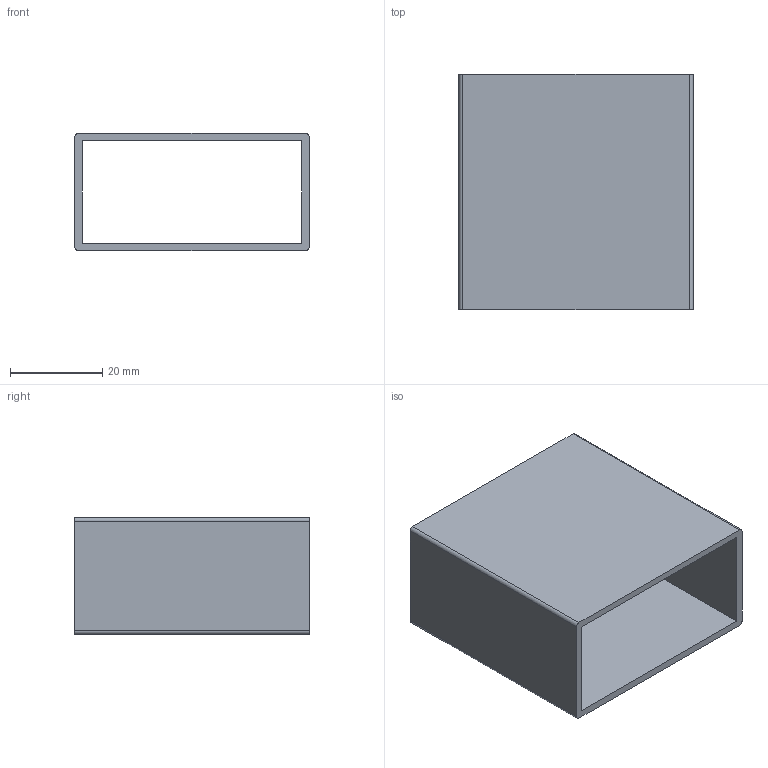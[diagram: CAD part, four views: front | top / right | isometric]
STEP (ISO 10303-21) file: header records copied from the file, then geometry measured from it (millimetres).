
FILE_DESCRIPTION(/* description */ (''),/* implementation_level */ '2;1');
FILE_NAME(/* name */ '6061-REC-200-100-062-IMPERIAL.step',/* time_stamp */ '2025-08-14T13:03:27-07:00',/* author */ (''),/* organization */ (''),/* preprocessor_version */ 'ST-DEVELOPER v20.1',/* originating_system */ 'Autodesk Translation Framework v14.10.0.0',/* authorisation */ '');
FILE_SCHEMA (('AUTOMOTIVE_DESIGN { 1 0 10303 214 3 1 1 }'));
Length unit declared in the file: inch
Products named in the file (1): (Unsaved)
Bounding box: 50.8 x 51.05 x 25.4 mm (x, y, z)
Volume: 11719.3 mm3; surface area: 15308.1 mm2
Topology: 1 solids, 1 shells, 14 faces, 36 edges, 24 vertices
Faces by surface type: plane 10, cylinder 4
Entity records: 467 total; most frequent: CARTESIAN_POINT 75, DIRECTION 74, ORIENTED_EDGE 72, EDGE_CURVE 36, LINE 28, VECTOR 28, VERTEX_POINT 24, AXIS2_PLACEMENT_3D 23
